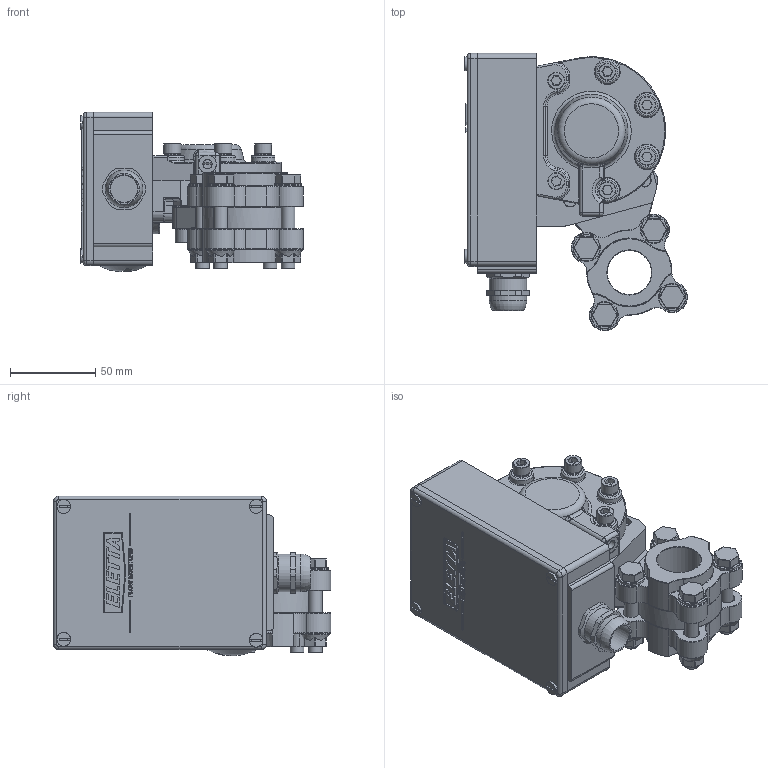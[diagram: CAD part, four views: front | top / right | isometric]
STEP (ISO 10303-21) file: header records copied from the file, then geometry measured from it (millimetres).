
FILE_DESCRIPTION(/* description */ ('Alibre Inc.'),/* implementation_level */ '2;1');
FILE_NAME(/* name */ 'export0',/* time_stamp */ '2012-10-15T10:55:56+02:00',/* author */ (''),/* organization */ (''),/* preprocessor_version */ 'ST-DEVELOPER v14',/* originating_system */ 'Alibre',/* authorisation */ '');
FILE_SCHEMA (('CONFIG_CONTROL_DESIGN'));
Length unit declared in the file: centimetre
Products named in the file (16): ID_1; ID_2; ID_3; ID_4; ID_5; ID_6; ID_7; ID_8; ID_9; ID_10; ID_11; ID_12; ID_13; ID_14
Bounding box: 130.84 x 162.65 x 93.66 mm (x, y, z)
Volume: 392983.6 mm3; surface area: 184973 mm2
Topology: 33 solids, 33 shells, 1523 faces, 3558 edges, 2151 vertices
Faces by surface type: plane 746, cylinder 306, cone 202, bspline 163, torus 93, sphere 13
Full cylindrical faces by diameter (mm): 5 x24, 5.5 x1, 6 x12, 6.038 x2, 6.5 x6, 8 x19, 8.4 x4, 9 x8, 9.6 x6, 10 x7, 10.5 x1, 12 x3, 13 x2, 14 x3, 16 x5, 17.966 x1, 19.5 x1, 22 x2, 22.5 x4, 26 x3, 29 x1, 31 x1
Entity records: 41931 total; most frequent: CARTESIAN_POINT 15969, ORIENTED_EDGE 4988, DIRECTION 4289, EDGE_CURVE 2494, AXIS2_PLACEMENT_3D 1781, VERTEX_POINT 1630, EDGE_LOOP 1416, FACE_BOUND 1416
